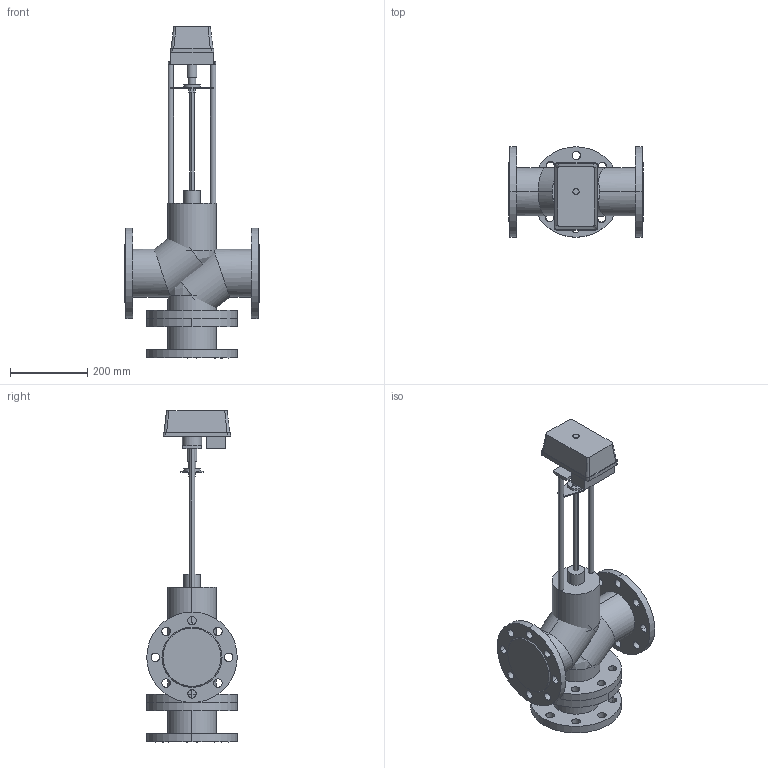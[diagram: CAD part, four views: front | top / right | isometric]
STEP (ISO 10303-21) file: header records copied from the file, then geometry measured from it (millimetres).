
FILE_DESCRIPTION(/* description */ (''),/* implementation_level */ '2;1');
FILE_NAME(/* name */ 'ТРК DN100 PN 2.5 МПа МИЭП-1 10000',/* time_stamp */ '2026-07-14T23:26:46+03:00',/* author */ (''),/* organization */ (''),/* preprocessor_version */ 'ST-DEVELOPER v20',/* originating_system */ '',/* authorisation */ '');
FILE_SCHEMA (('AP242_MANAGED_MODEL_BASED_3D_ENGINEERING_MIM_LF { 1 0 10303 442 1 1 4 }'));
Length unit declared in the file: millimetre
Products named in the file (16): TopLevelAssembly; Выдавливание; Модификатор; Модификатор_1; Выдавливание_
1; Выдавливание_
2; Вращение; Выдавливание_
3; Выдавливание_
4; Выдавливание_
5; Выдавливание_
6; Выдавливание_
7; 10000; Переход; Объемная геометрия 
присоединена; Объемная геометрия 
присоединена_1
Assembly tree (15 placements, depth 2):
  TopLevelAssembly
    Выдавливание
    Модификатор
    Модификатор_1
    Выдавливание_
1
    Выдавливание_
2
    Вращение
    Выдавливание_
3
    Выдавливание_
4
    Выдавливание_
5
    Выдавливание_
6
    Выдавливание_
7
    10000
    Переход
    Объемная геометрия 
присоединена
    Объемная геометрия 
присоединена_1
Bounding box: 350 x 235 x 862 mm (x, y, z)
Volume: 14028654.4 mm3; surface area: 1199061.6 mm2
Topology: 25 solids, 25 shells, 245 faces, 564 edges, 364 vertices
Faces by surface type: cylinder 144, plane 89, bspline 8, cone 4
Entity records: 7911 total; most frequent: DIRECTION 1403, CARTESIAN_POINT 1384, ORIENTED_EDGE 1112, AXIS2_PLACEMENT_3D 579, EDGE_CURVE 556, VERTEX_POINT 364, EDGE_LOOP 336, CIRCLE 303
